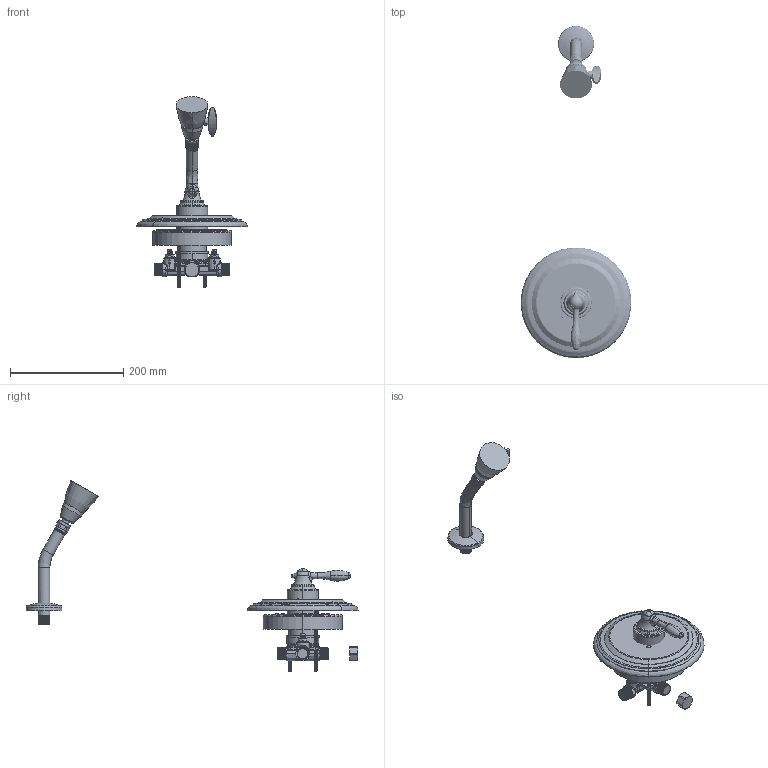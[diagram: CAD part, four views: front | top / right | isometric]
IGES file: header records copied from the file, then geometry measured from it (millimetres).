
Start section:  PTC IGES file: sh-tp1-06-000_REV0710519.igs
Global section: file name: sh-tp1-06-000_REV0710519.igs; native system: Creo Parametric by PTC Inc.; preprocessor: 2017260; author: dmisv; organization: Unknown; date: 20190715.152738; units: inch
Bounding box: 194.76 x 586.33 x 336.94 mm (x, y, z)
Surface area: 202900.1 mm2 (no closed solid volume)
Topology: 0 solids, 0 shells, 1648 faces, 15172 edges, 21023 vertices
Faces by surface type: bspline 880, revolution 730, extrusion 38
